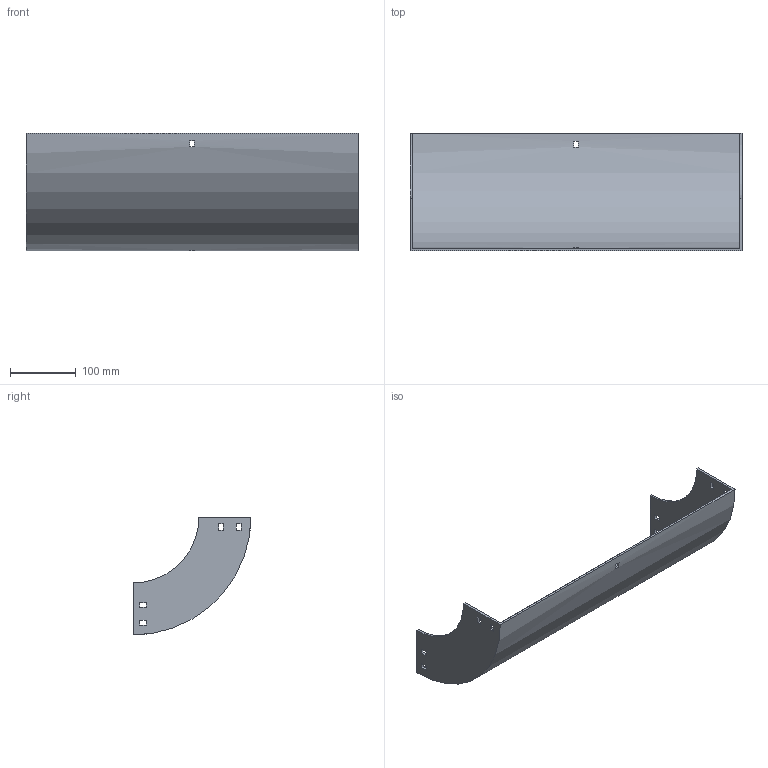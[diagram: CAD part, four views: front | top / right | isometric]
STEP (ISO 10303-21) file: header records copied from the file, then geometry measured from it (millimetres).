
FILE_DESCRIPTION (( 'STEP AP214' ), '1' );
FILE_NAME ('30B1C500.step', '2025-02-21T09:51:02', ( '' ), ( '' ), 'SwSTEP 2.0', 'SolidWorks 2023', '' );
FILE_SCHEMA (( 'AUTOMOTIVE_DESIGN' ));
Length unit declared in the file: millimetre
Products named in the file (1): 30B1C500
Bounding box: 504 x 179 x 179 mm (x, y, z)
Volume: 603123.3 mm3; surface area: 351515.7 mm2
Topology: 1 solids, 1 shells, 50 faces, 144 edges, 96 vertices
Faces by surface type: plane 46, cylinder 4
Entity records: 1687 total; most frequent: CARTESIAN_POINT 291, ORIENTED_EDGE 288, DIRECTION 262, EDGE_CURVE 144, LINE 128, VECTOR 128, VERTEX_POINT 96, EDGE_LOOP 70
